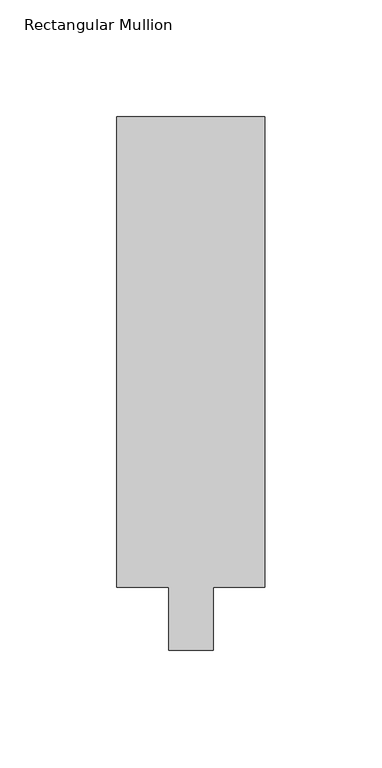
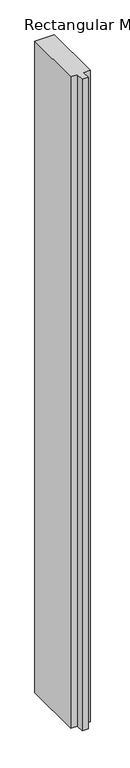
"""IFC4 building model written with IfcOpenShell, lengths in millimetres: member geometry."""

from ifc_helpers import new_model, si_unit, frame, origin, place, context, project, spatial, polyline, outline, extrude, source, transform, mapped, element, save


def rectangular_mullion_52c3b131(model_context):
    return source(origin(), model_context, "Body", "SweptSolid", [
        extrude(outline(polyline([(-31.75, 228.6), (31.75, 228.6), (31.75, 26.9875), (9.525, 26.9875), (9.525, 0.0), (-9.525, 0.0), (-9.525, 26.9875), (-31.75, 26.9875), (-31.75, 228.6)])), frame((0.0, 0.0, -2243.1510357), z_axis=(0.0, 0.0, 1.0), x_axis=(1.0, 0.0, 0.0)), (0.0, 0.0, 1.0), 2243.1510357),
    ])


if __name__ == "__main__":
    model = new_model("IFC4")
    model_context = context("Model", 3, world=origin())
    ifc_project = project(units=[si_unit("LENGTHUNIT", "METRE", prefix="MILLI")], contexts=[model_context])
    site = spatial("IfcSite", under=ifc_project)
    building = spatial("IfcBuilding", under=site)
    placement = place(None, origin())
    rectangular_mullion_shape = rectangular_mullion_52c3b131(model_context)
    element("IfcMember", 1, ObjectType="Rectangular Mullion : 2 1/2\" x 8\" - Capless", at=placement, inside=building, context=model_context, shape_type="MappedRepresentation", body=[
        mapped(rectangular_mullion_shape, transform((0.0, 0.0, 0.0), x_axis=(1.0, 0.0, 0.0), y_axis=(0.0, 1.0, 0.0), z_axis=(0.0, 0.0, 1.0))),
    ])
    save(model, "model.ifc")
